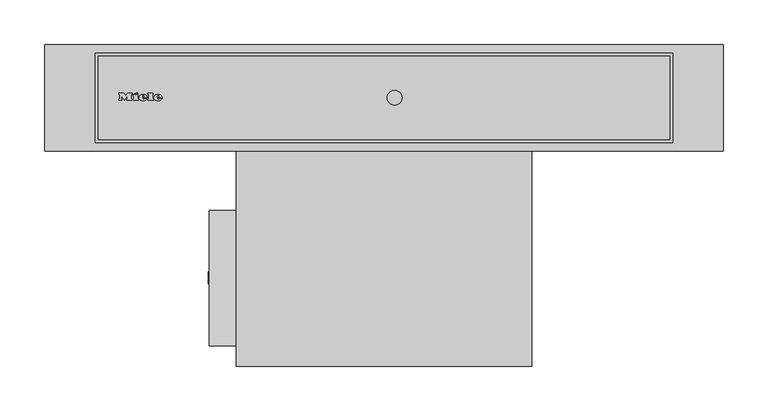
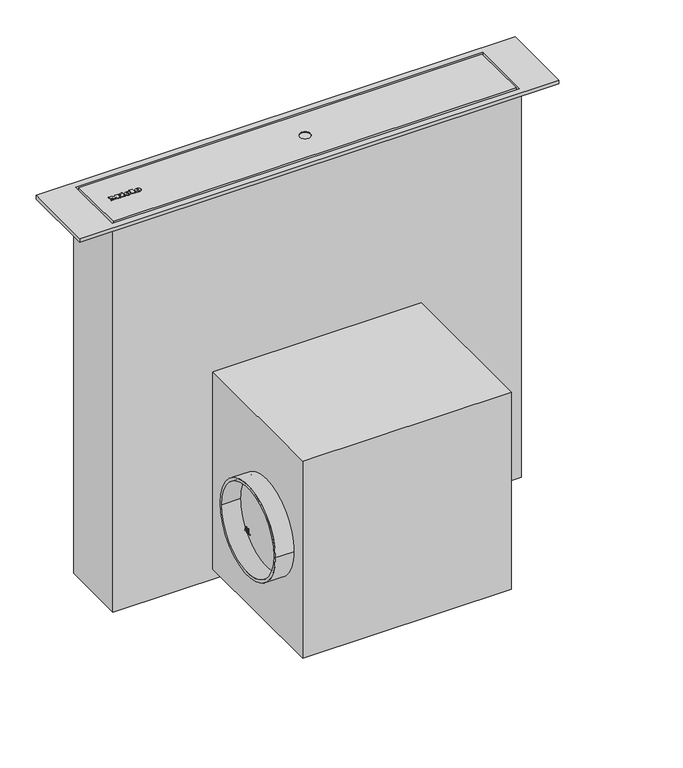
"""IFC4 building model written with IfcOpenShell, lengths in millimetres: proxy geometry, 10595900_USA_DA6881_EDST : 28688150_USA_10595900_DA6881_EDST."""

from ifc_helpers import new_model, si_unit, point, frame, frame_2d, origin, origin_with_axes, place, context, project, spatial, polyline, circle_curve, ellipse_curve, trimmed, segment, composite_curve, outline, extrude, source, transform, mapped, element, save
from ifc_brep_helpers import plane_surface, cylinder_surface, revolved_surface, extruded_surface, advanced_brep


def specialty_equipment_becc9887(model_context):
    return source(origin(), model_context, "Body", "SolidModel", [
        extrude(outline(polyline([(-297.664, -55.9580008), (-297.664, -54.6540008), (-292.088, -54.6540008), (-289.744, -57.6540008), (-287.408, -54.6540008), (-282.536, -54.6540008), (-282.536, -55.9580008), (-283.552, -55.9580008), (-283.552, -61.3100008), (-282.536, -61.3100008), (-282.536, -62.6540008), (-288.92, -62.6540008), (-288.92, -61.3100008), (-287.936, -61.3100008), (-287.936, -57.8387785), (-291.528, -62.6540008), (-295.104, -57.906876), (-295.104, -61.3100008), (-294.144, -61.3100008), (-294.144, -62.6540008), (-297.664, -62.6540008), (-297.664, -61.3100008), (-296.696, -61.3100008), (-296.696, -55.9580008), (-297.664, -55.9580008)])), frame((0.0, 0.0, 651.8999939), z_axis=(0.0, 0.0, 1.0), x_axis=(1.0, 0.0, 0.0)), (0.0, 0.0, 1.0), 1.0),
        extrude(outline(polyline([(-265.2, -55.9580008), (-265.2, -54.6540008), (-259.696, -54.6540008), (-259.696, -61.3100008), (-258.712, -61.3100008), (-258.712, -62.6540008), (-265.2, -62.6540008), (-265.2, -61.3100008), (-264.24, -61.3100008), (-264.24, -55.9580008), (-265.2, -55.9580008)])), frame((0.0, 0.0, 651.8999939), z_axis=(0.0, 0.0, 1.0), x_axis=(1.0, 0.0, 0.0)), (0.0, 0.0, 1.0), 1.0),
        extrude(outline(polyline([(-279.744, -55.1260008), (-277.024, -53.8620008), (-276.424, -55.1580008), (-279.136, -56.4220008), (-279.744, -55.1260008)])), frame((0.0, 0.0, 651.8999939), z_axis=(0.0, 0.0, 1.0), x_axis=(1.0, 0.0, 0.0)), (0.0, 0.0, 1.0), 1.0),
        extrude(outline(polyline([(-281.72, -56.5980008), (-276.336, -56.5980008), (-276.336, -61.3100008), (-275.408, -61.3100008), (-275.408, -62.6540008), (-281.72, -62.6540008), (-281.72, -61.3100008), (-280.768, -61.3100008), (-280.768, -58.0300008), (-281.72, -58.0300008), (-281.72, -56.5980008)])), frame((0.0, 0.0, 651.8999939), z_axis=(0.0, 0.0, 1.0), x_axis=(1.0, 0.0, 0.0)), (0.0, 0.0, 1.0), 1.0),
        advanced_brep(
        [(-271.0, -60.7580008, 652.8999939), (-271.0, -59.9500008, 652.8999939), (-265.648, -59.9500008, 652.8999939), (-274.96, -59.9500008, 652.8999939), (-272.76, -62.6540008, 652.8999939), (-265.784, -60.7580008, 652.8999939), (-268.2, -60.7580008, 652.8999939), (-270.104, -61.6540008, 652.8999939), (-271.0, -58.9260008, 652.8999939), (-271.0, -58.0540008, 652.8999939), (-269.632, -58.0540008, 652.8999939), (-269.632, -58.9260008, 652.8999939), (-271.0, -60.7580008, 651.8999939), (-270.104, -61.6540008, 651.8999939), (-268.2, -60.7580008, 651.8999939), (-265.784, -60.7580008, 651.8999939), (-272.76, -62.6540008, 651.8999939), (-274.96, -59.9500008, 651.8999939), (-265.648, -59.9500008, 651.8999939), (-271.0, -59.9500008, 651.8999939), (-271.0, -58.9260008, 651.8999939), (-269.632, -58.9260008, 651.8999939), (-269.632, -58.0540008, 651.8999939), (-271.0, -58.0540008, 651.8999939)],
        [
            (0, 1),
            (1, 2),
            (2, 3, ellipse_curve(frame((-270.304, -59.9500008, 652.8999939), z_axis=(0.0, 0.0, 1.0), x_axis=(-1.0, 0.0, 0.0)), 4.656, 3.848)),
            (3, 4, circle_curve(frame((-271.8639564, -59.6780008, 652.8999939), z_axis=(0.0, 0.0, 1.0), x_axis=(0.0, -1.0, 0.0)), 3.1079688)),
            (4, 5, circle_curve(frame((-270.3972064, -57.5660008, 652.8999939), z_axis=(0.0, 0.0, 1.0), x_axis=(0.0, -1.0, 0.0)), 5.6098607)),
            (5, 6),
            (6, 7, circle_curve(frame((-269.7129412, -60.0140008, 652.8999939), z_axis=(0.0, 0.0, -1.0), x_axis=(0.0, -1.0, 0.0)), 1.6859795)),
            (7, 0, circle_curve(frame((-270.104, -60.7580008, 652.8999939), z_axis=(0.0, 0.0, -1.0), x_axis=(0.0, -1.0, 0.0)), 0.896)),
            (8, 9),
            (9, 10, circle_curve(frame((-270.316, -58.0540008, 652.8999939), z_axis=(0.0, 0.0, -1.0), x_axis=(0.0, -1.0, 0.0)), 0.684)),
            (10, 11),
            (11, 8),
            (12, 13, circle_curve(frame((-270.104, -60.7580008, 651.8999939), z_axis=(0.0, 0.0, 1.0), x_axis=(0.0, -1.0, 0.0)), 0.896)),
            (13, 14, circle_curve(frame((-269.7129412, -60.0140008, 651.8999939), z_axis=(0.0, 0.0, 1.0), x_axis=(0.0, -1.0, 0.0)), 1.6859795)),
            (14, 15),
            (15, 16, circle_curve(frame((-270.3972064, -57.5660008, 651.8999939), z_axis=(0.0, 0.0, -1.0), x_axis=(0.0, -1.0, 0.0)), 5.6098607)),
            (16, 17, circle_curve(frame((-271.8639564, -59.6780008, 651.8999939), z_axis=(0.0, 0.0, -1.0), x_axis=(0.0, -1.0, 0.0)), 3.1079688)),
            (17, 18, ellipse_curve(frame((-270.304, -59.9500008, 651.8999939), z_axis=(0.0, 0.0, -1.0), x_axis=(-1.0, 0.0, 0.0)), 4.656, 3.848)),
            (18, 19),
            (19, 12),
            (20, 21),
            (21, 22),
            (22, 23, circle_curve(frame((-270.316, -58.0540008, 651.8999939), z_axis=(0.0, 0.0, 1.0), x_axis=(0.0, -1.0, 0.0)), 0.684)),
            (23, 20),
            (0, 12),
            (19, 1),
            (18, 2),
            (5, 15),
            (14, 6),
            (17, 3),
            (13, 7),
            (16, 4),
            (8, 20),
            (23, 9),
            (22, 10),
            (21, 11),
        ],
        [
            plane_surface(frame((-271.0, -59.9500008, 652.8999939), z_axis=(0.0, 0.0, 1.0), x_axis=(0.0, 1.0, 0.0))),
            plane_surface(frame((-271.0, -59.9500008, 651.8999939), z_axis=(0.0, 0.0, -1.0), x_axis=(0.0, -1.0, 0.0))),
            plane_surface(frame((-271.0, -60.7580008, 652.8999939), z_axis=(1.0, 0.0, 0.0), x_axis=(0.0, 0.0, -1.0))),
            plane_surface(frame((-271.0, -59.9500008, 652.8999939), z_axis=(0.0, -1.0, 0.0), x_axis=(0.0, 0.0, -1.0))),
            plane_surface(frame((-265.784, -60.7580008, 652.8999939), z_axis=(0.0, 1.0, 0.0), x_axis=(0.0, 0.0, -1.0))),
            extruded_surface(trimmed(ellipse_curve(frame((-270.304, -59.9500008, 650.8999939), z_axis=(0.0, 0.0, 1.0), x_axis=(-1.0, 0.0, 0.0)), 4.656, 3.848), [point((-265.648, -59.9500008, 650.8999939))], [point((-274.96, -59.9500008, 650.8999939))], True, "CARTESIAN"), (0.0, 0.0, 1.0), 1.0),
            revolved_surface(polyline([(-269.7129412, -61.6999803, 651.8999939), (-269.7129412, -61.6999803, 652.8999939)]), (-269.7129412, -60.0140008, 651.8999939), (0.0, 0.0, -1.0)),
            revolved_surface(polyline([(-270.104, -61.6540008, 651.8999939), (-270.104, -61.6540008, 652.8999939)]), (-270.104, -60.7580008, 651.8999939), (0.0, 0.0, -1.0)),
            cylinder_surface(frame((-271.8639564, -59.6780008, 651.8999939), z_axis=(0.0, 0.0, 1.0), x_axis=(0.0, -1.0, 0.0)), 3.1079688),
            cylinder_surface(frame((-270.3972064, -57.5660008, 651.8999939), z_axis=(0.0, 0.0, 1.0), x_axis=(0.0, -1.0, 0.0)), 5.6098607),
            plane_surface(frame((-271.0, -58.9260008, 652.8999939), z_axis=(1.0, 0.0, 0.0), x_axis=(0.0, 0.0, -1.0))),
            revolved_surface(polyline([(-270.316, -58.738000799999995, 651.8999939), (-270.316, -58.738000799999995, 652.8999939)]), (-270.316, -58.0540008, 651.8999939), (0.0, 0.0, -1.0)),
            plane_surface(frame((-269.632, -58.0540008, 652.8999939), z_axis=(-1.0, 0.0, 0.0), x_axis=(0.0, 0.0, -1.0))),
            plane_surface(frame((-269.632, -58.9260008, 652.8999939), z_axis=(0.0, 1.0, 0.0), x_axis=(0.0, 0.0, -1.0))),
        ],
        [
            (0, [[1, 2, 3, 4, 5, 6, 7, 8], [9, 10, 11, 12]]),
            (1, [[13, 14, 15, 16, 17, 18, 19, 20], [21, 22, 23, 24]]),
            (2, [[-1, 25, -20, 26]]),
            (3, [[-2, -26, -19, 27]]),
            (4, [[-6, 28, -15, 29]]),
            (5, [[-3, -27, -18, 30]]),
            (6, [[-7, -29, -14, 31]]),
            (7, [[-8, -31, -13, -25]]),
            (8, [[-4, -30, -17, 32]]),
            (9, [[-5, -32, -16, -28]]),
            (10, [[-9, 33, -24, 34]]),
            (11, [[-10, -34, -23, 35]]),
            (12, [[-11, -35, -22, 36]]),
            (13, [[-12, -36, -21, -33]]),
        ],
    ),
        advanced_brep(
        [(-254.304, -60.7580008, 652.8999939), (-254.304, -59.9500008, 652.8999939), (-248.952, -59.9500008, 652.8999939), (-258.264, -59.9500008, 652.8999939), (-256.064, -62.6540008, 652.8999939), (-249.088, -60.7580008, 652.8999939), (-251.504, -60.7580008, 652.8999939), (-253.408, -61.6540008, 652.8999939), (-254.304, -58.9260008, 652.8999939), (-254.304, -58.0540008, 652.8999939), (-252.936, -58.0540008, 652.8999939), (-252.936, -58.9260008, 652.8999939), (-254.304, -60.7580008, 651.8999939), (-253.408, -61.6540008, 651.8999939), (-251.504, -60.7580008, 651.8999939), (-249.088, -60.7580008, 651.8999939), (-256.064, -62.6540008, 651.8999939), (-258.264, -59.9500008, 651.8999939), (-248.952, -59.9500008, 651.8999939), (-254.304, -59.9500008, 651.8999939), (-254.304, -58.9260008, 651.8999939), (-252.936, -58.9260008, 651.8999939), (-252.936, -58.0540008, 651.8999939), (-254.304, -58.0540008, 651.8999939)],
        [
            (0, 1),
            (1, 2),
            (2, 3, ellipse_curve(frame((-253.608, -59.9500008, 652.8999939), z_axis=(0.0, 0.0, 1.0), x_axis=(-1.0, 0.0, 0.0)), 4.656, 3.848)),
            (3, 4, circle_curve(frame((-255.1679564, -59.6780008, 652.8999939), z_axis=(0.0, 0.0, 1.0), x_axis=(0.0, -1.0, 0.0)), 3.1079688)),
            (4, 5, circle_curve(frame((-253.7012064, -57.5660008, 652.8999939), z_axis=(0.0, 0.0, 1.0), x_axis=(0.0, -1.0, 0.0)), 5.6098607)),
            (5, 6),
            (6, 7, circle_curve(frame((-253.0169412, -60.0140008, 652.8999939), z_axis=(0.0, 0.0, -1.0), x_axis=(0.0, -1.0, 0.0)), 1.6859795)),
            (7, 0, circle_curve(frame((-253.408, -60.7580008, 652.8999939), z_axis=(0.0, 0.0, -1.0), x_axis=(0.0, -1.0, 0.0)), 0.896)),
            (8, 9),
            (9, 10, circle_curve(frame((-253.62, -58.0540008, 652.8999939), z_axis=(0.0, 0.0, -1.0), x_axis=(0.0, -1.0, 0.0)), 0.684)),
            (10, 11),
            (11, 8),
            (12, 13, circle_curve(frame((-253.408, -60.7580008, 651.8999939), z_axis=(0.0, 0.0, 1.0), x_axis=(0.0, -1.0, 0.0)), 0.896)),
            (13, 14, circle_curve(frame((-253.0169412, -60.0140008, 651.8999939), z_axis=(0.0, 0.0, 1.0), x_axis=(0.0, -1.0, 0.0)), 1.6859795)),
            (14, 15),
            (15, 16, circle_curve(frame((-253.7012064, -57.5660008, 651.8999939), z_axis=(0.0, 0.0, -1.0), x_axis=(0.0, -1.0, 0.0)), 5.6098607)),
            (16, 17, circle_curve(frame((-255.1679564, -59.6780008, 651.8999939), z_axis=(0.0, 0.0, -1.0), x_axis=(0.0, -1.0, 0.0)), 3.1079688)),
            (17, 18, ellipse_curve(frame((-253.608, -59.9500008, 651.8999939), z_axis=(0.0, 0.0, -1.0), x_axis=(-1.0, 0.0, 0.0)), 4.656, 3.848)),
            (18, 19),
            (19, 12),
            (20, 21),
            (21, 22),
            (22, 23, circle_curve(frame((-253.62, -58.0540008, 651.8999939), z_axis=(0.0, 0.0, 1.0), x_axis=(0.0, -1.0, 0.0)), 0.684)),
            (23, 20),
            (0, 12),
            (19, 1),
            (18, 2),
            (5, 15),
            (14, 6),
            (17, 3),
            (13, 7),
            (16, 4),
            (8, 20),
            (23, 9),
            (22, 10),
            (21, 11),
        ],
        [
            plane_surface(frame((-254.304, -59.9500008, 652.8999939), z_axis=(0.0, 0.0, 1.0), x_axis=(0.0, 1.0, 0.0))),
            plane_surface(frame((-254.304, -59.9500008, 651.8999939), z_axis=(0.0, 0.0, -1.0), x_axis=(0.0, -1.0, 0.0))),
            plane_surface(frame((-254.304, -60.7580008, 652.8999939), z_axis=(1.0, 0.0, 0.0), x_axis=(0.0, 0.0, -1.0))),
            plane_surface(frame((-254.304, -59.9500008, 652.8999939), z_axis=(0.0, -1.0, 0.0), x_axis=(0.0, 0.0, -1.0))),
            plane_surface(frame((-249.088, -60.7580008, 652.8999939), z_axis=(0.0, 1.0, 0.0), x_axis=(0.0, 0.0, -1.0))),
            extruded_surface(trimmed(ellipse_curve(frame((-253.608, -59.9500008, 650.8999939), z_axis=(0.0, 0.0, 1.0), x_axis=(-1.0, 0.0, 0.0)), 4.656, 3.848), [point((-248.952, -59.9500008, 650.8999939))], [point((-258.264, -59.9500008, 650.8999939))], True, "CARTESIAN"), (0.0, 0.0, 1.0), 1.0),
            revolved_surface(polyline([(-253.0169412, -61.6999803, 651.8999939), (-253.0169412, -61.6999803, 652.8999939)]), (-253.0169412, -60.0140008, 651.8999939), (0.0, 0.0, -1.0)),
            revolved_surface(polyline([(-253.408, -61.6540008, 651.8999939), (-253.408, -61.6540008, 652.8999939)]), (-253.408, -60.7580008, 651.8999939), (0.0, 0.0, -1.0)),
            cylinder_surface(frame((-255.1679564, -59.6780008, 651.8999939), z_axis=(0.0, 0.0, 1.0), x_axis=(0.0, -1.0, 0.0)), 3.1079688),
            cylinder_surface(frame((-253.7012064, -57.5660008, 651.8999939), z_axis=(0.0, 0.0, 1.0), x_axis=(0.0, -1.0, 0.0)), 5.6098607),
            plane_surface(frame((-254.304, -58.9260008, 652.8999939), z_axis=(1.0, 0.0, 0.0), x_axis=(0.0, 0.0, -1.0))),
            revolved_surface(polyline([(-253.62, -58.738000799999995, 651.8999939), (-253.62, -58.738000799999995, 652.8999939)]), (-253.62, -58.0540008, 651.8999939), (0.0, 0.0, -1.0)),
            plane_surface(frame((-252.936, -58.0540008, 652.8999939), z_axis=(-1.0, 0.0, 0.0), x_axis=(0.0, 0.0, -1.0))),
            plane_surface(frame((-252.936, -58.9260008, 652.8999939), z_axis=(0.0, 1.0, 0.0), x_axis=(0.0, 0.0, -1.0))),
        ],
        [
            (0, [[1, 2, 3, 4, 5, 6, 7, 8], [9, 10, 11, 12]]),
            (1, [[13, 14, 15, 16, 17, 18, 19, 20], [21, 22, 23, 24]]),
            (2, [[-1, 25, -20, 26]]),
            (3, [[-2, -26, -19, 27]]),
            (4, [[-6, 28, -15, 29]]),
            (5, [[-3, -27, -18, 30]]),
            (6, [[-7, -29, -14, 31]]),
            (7, [[-8, -31, -13, -25]]),
            (8, [[-4, -30, -17, 32]]),
            (9, [[-5, -32, -16, -28]]),
            (10, [[-9, 33, -24, 34]]),
            (11, [[-10, -34, -23, 35]]),
            (12, [[-11, -35, -22, 36]]),
            (13, [[-12, -36, -21, -33]]),
        ],
    ),
        extrude(outline(polyline([(166.0, -361.4), (-166.0, -361.4), (-166.0, -114.0), (166.0, -114.0), (166.0, -361.4)])), frame((0.0, 0.0, 16.8999939), z_axis=(0.0, 0.0, 1.0), x_axis=(1.0, 0.0, 0.0)), (0.0, 0.0, 1.0), 332.0),
        extrude(outline(composite_curve([segment(trimmed(circle_curve(frame_2d((-262.3999977, 182.8999939)), 76.2003937), [point((-338.6003914, 182.8999939))], [point((-186.199604, 182.8999939))], False, "CARTESIAN"), True, "CONTINUOUS"), segment(trimmed(circle_curve(frame_2d((-262.3999977, 182.8999939)), 76.2003937), [point((-186.199604, 182.8999939))], [point((-338.6003914, 182.8999939))], False, "CARTESIAN"), True, "CONTINUOUS")], self_intersect=False), holes=[composite_curve([segment(trimmed(circle_curve(frame_2d((-262.3999977, 182.8999939)), 71.2624664), [point((-333.6624641, 182.8999939))], [point((-191.1375313, 182.8999939))], True, "CARTESIAN"), True, "CONTINUOUS"), segment(trimmed(circle_curve(frame_2d((-262.3999977, 182.8999939)), 71.2624664), [point((-191.1375313, 182.8999939))], [point((-333.6624641, 182.8999939))], True, "CARTESIAN"), True, "CONTINUOUS")], self_intersect=False)]), frame((-196.0, 0.0, 0.0), z_axis=(1.0, 0.0, 0.0), x_axis=(0.0, 1.0, 0.0)), (0.0, 0.0, 1.0), 30.0),
        extrude(outline(polyline([(325.0, -114.0), (-325.0, -114.0), (-325.0, -5.7999992), (325.0, -5.7999992), (325.0, -114.0)])), origin_with_axes(), (0.0, 0.0, 1.0), 645.8999939),
        extrude(outline(polyline([(381.0, 0.0), (381.0, -120.0), (-381.0, -120.0), (-381.0, 0.0), (381.0, 0.0)]), holes=[polyline([(-323.9500122, -110.3), (323.9500122, -110.3), (323.9500122, -9.7000008), (-323.9500122, -9.7000008), (-323.9500122, -110.3)])]), frame((0.0, 0.0, 645.8999939), z_axis=(0.0, 0.0, 1.0), x_axis=(1.0, 0.0, 0.0)), (0.0, 0.0, 1.0), 6.0),
        advanced_brep(
        [(320.6499939, -12.9500008, 645.8999939), (320.6499939, -106.9500008, 645.8999939), (-320.6499939, -106.9500008, 645.8999939), (-320.6499939, -12.9500008, 645.8999939), (320.6499939, -12.9500008, 651.8999939), (-320.6499939, -12.9500008, 651.8999939), (-320.6499939, -106.9500008, 651.8999939), (320.6499939, -106.9500008, 651.8999939), (20.3030959, -59.9500008, 651.8999939), (3.6969041, -59.9500008, 651.8999939), (3.6969041, -59.9500008, 650.8999939), (20.3030959, -59.9500008, 650.8999939)],
        [
            (0, 1),
            (1, 2),
            (2, 3),
            (3, 0),
            (4, 5),
            (5, 6),
            (6, 7),
            (7, 4),
            (8, 9, circle_curve(frame((12.0, -59.9500008, 651.8999939), z_axis=(0.0, 0.0, -1.0), x_axis=(1.0, 0.0, 0.0)), 8.3030959)),
            (9, 8, circle_curve(frame((12.0, -59.9500008, 651.8999939), z_axis=(0.0, 0.0, -1.0), x_axis=(1.0, 0.0, 0.0)), 8.3030959)),
            (3, 5),
            (4, 0),
            (2, 6),
            (1, 7),
            (10, 11, circle_curve(frame((12.0, -59.9500008, 650.8999939), z_axis=(0.0, 0.0, 1.0), x_axis=(1.0, 0.0, 0.0)), 8.3030959)),
            (11, 10, circle_curve(frame((12.0, -59.9500008, 650.8999939), z_axis=(0.0, 0.0, 1.0), x_axis=(1.0, 0.0, 0.0)), 8.3030959)),
            (10, 9),
            (8, 11),
        ],
        [
            plane_surface(frame((-320.6499939, -12.9500008, 645.8999939), z_axis=(0.0, 0.0, -1.0), x_axis=(1.0, 0.0, 0.0))),
            plane_surface(frame((-320.6499939, -12.9500008, 651.8999939), z_axis=(0.0, 0.0, 1.0), x_axis=(-1.0, 0.0, 0.0))),
            plane_surface(frame((320.6499939, -12.9500008, 651.8999939), z_axis=(0.0, 1.0, 0.0), x_axis=(0.0, 0.0, -1.0))),
            plane_surface(frame((-320.6499939, -12.9500008, 651.8999939), z_axis=(-1.0, 0.0, 0.0), x_axis=(0.0, 0.0, -1.0))),
            plane_surface(frame((-320.6499939, -106.9500008, 651.8999939), z_axis=(0.0, -1.0, 0.0), x_axis=(0.0, 0.0, -1.0))),
            plane_surface(frame((320.6499939, -106.9500008, 651.8999939), z_axis=(1.0, 0.0, 0.0), x_axis=(0.0, 0.0, -1.0))),
            plane_surface(frame((20.3030959, -59.9500008, 650.8999939), z_axis=(0.0, 0.0, 1.0), x_axis=(0.0, -1.0, 0.0))),
            revolved_surface(polyline([(20.303095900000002, -59.9500008, 651.8999939), (20.303095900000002, -59.9500008, 650.8999939)]), (12.0, -59.9500008, 650.8999939), (0.0, 0.0, 1.0)),
        ],
        [
            (0, [[1, 2, 3, 4]]),
            (1, [[5, 6, 7, 8], [9, 10]]),
            (2, [[-4, 11, -5, 12]]),
            (3, [[-3, 13, -6, -11]]),
            (4, [[-2, 14, -7, -13]]),
            (5, [[-1, -12, -8, -14]]),
            (6, [[15, 16]]),
            (7, [[-15, 17, -9, 18]]),
            (7, [[-16, -18, -10, -17]]),
        ],
    ),
        extrude(outline(polyline([(-255.5642597, 178.8999939), (-256.6237599, 178.8999939), (-257.5419933, 181.4114017), (-260.8539123, 181.4114017), (-261.7721458, 178.8999939), (-262.833608, 178.8999939), (-259.627639, 186.9364987), (-258.7721907, 186.9364987), (-255.5642597, 178.8999939)]), holes=[polyline([(-257.9108564, 182.4159648), (-258.6976333, 184.5643956), (-259.1979528, 185.9319356), (-259.7610575, 184.3917363), (-260.4870113, 182.4159648), (-257.9108564, 182.4159648)])]), frame((-197.0, 0.0, 0.0), z_axis=(1.0, 0.0, 0.0), x_axis=(0.0, 1.0, 0.0)), (0.0, 0.0, 1.0), 1.0),
        extrude(outline(polyline([(-263.9068424, 178.8999939), (-268.9296579, 178.8999939), (-268.9296579, 179.904557), (-264.9114055, 179.904557), (-264.9114055, 186.9364987), (-263.9068424, 186.9364987), (-263.9068424, 178.8999939)])), frame((-197.0, 0.0, 0.0), z_axis=(1.0, 0.0, 0.0), x_axis=(0.0, 1.0, 0.0)), (0.0, 0.0, 1.0), 1.0),
        extrude(outline(composite_curve([segment(trimmed(circle_curve(frame_2d((189.0, -93.6000013)), 8.0), [point((181.0, -93.6000013))], [point((197.0, -93.6000013))], False, "CARTESIAN"), True, "CONTINUOUS"), segment(trimmed(circle_curve(frame_2d((189.0, -93.6000013)), 8.0), [point((197.0, -93.6000013))], [point((181.0, -93.6000013))], False, "CARTESIAN"), True, "CONTINUOUS")], self_intersect=False)), frame((0.0, 0.0, -30.0), z_axis=(0.0, 0.0, 1.0), x_axis=(1.0, 0.0, 0.0)), (0.0, 0.0, 1.0), 30.0),
        extrude(outline(polyline([(183.0981918, -89.6000013), (189.0, -89.6000013), (189.0, -90.6045644), (184.1027549, -90.6045644), (184.1027549, -93.2415426), (188.6232888, -93.2415426), (188.6232888, -94.2461057), (184.1027549, -94.2461057), (184.1027549, -96.631943), (188.8744296, -96.631943), (188.8744296, -97.6365061), (183.0981918, -97.6365061), (183.0981918, -89.6000013)])), frame((0.0, 0.0, -31.0), z_axis=(0.0, 0.0, 1.0), x_axis=(1.0, 0.0, 0.0)), (0.0, 0.0, 1.0), 1.0),
        extrude(outline(polyline([(190.5068447, -89.6000013), (195.5296602, -89.6000013), (195.5296602, -90.6045644), (191.5114078, -90.6045644), (191.5114078, -97.6365061), (190.5068447, -97.6365061), (190.5068447, -89.6000013)])), frame((0.0, 0.0, -31.0), z_axis=(0.0, 0.0, 1.0), x_axis=(1.0, 0.0, 0.0)), (0.0, 0.0, 1.0), 1.0),
    ])


if __name__ == "__main__":
    model = new_model("IFC4")
    model_context = context("Model", 3, world=origin())
    ifc_project = project(units=[si_unit("LENGTHUNIT", "METRE", prefix="MILLI")], contexts=[model_context])
    site = spatial("IfcSite", under=ifc_project)
    building = spatial("IfcBuilding", under=site)
    placement = place(None, origin())
    specialty_equipment_shape = specialty_equipment_becc9887(model_context)
    element("IfcBuildingElementProxy", 1, Name="10595900_USA_DA6881_EDST : 28688150_USA_10595900_DA6881_EDST", ObjectType="10595900_USA_DA6881_EDST : 28688150_USA_10595900_DA6881_EDST", at=placement, inside=building, context=model_context, shape_type="MappedRepresentation", body=[
        mapped(specialty_equipment_shape, transform((0.0, 0.0, 0.0), x_axis=(1.0, 0.0, 0.0), y_axis=(0.0, 1.0, 0.0), z_axis=(0.0, 0.0, 1.0))),
    ])
    save(model, "model.ifc")
